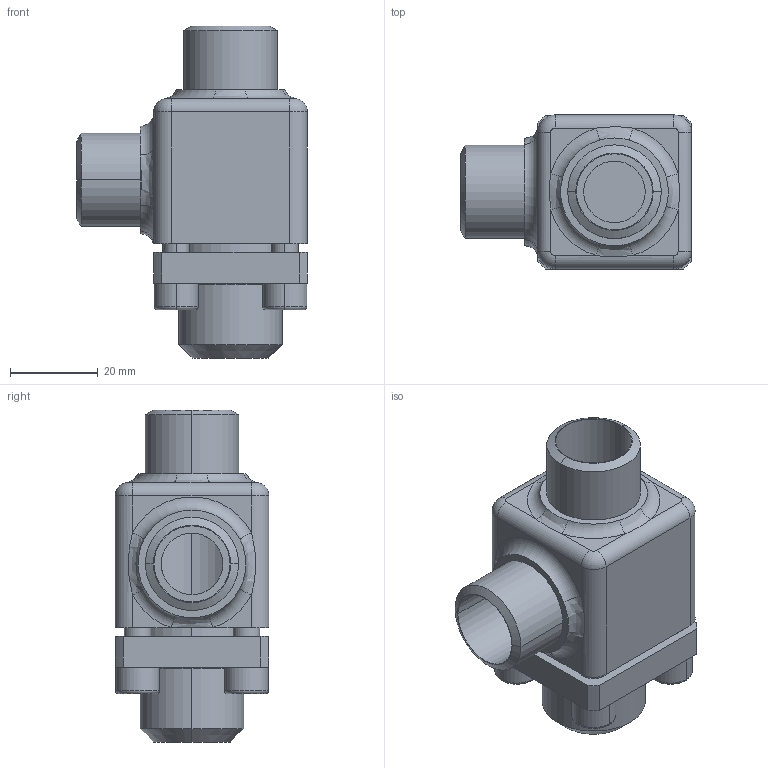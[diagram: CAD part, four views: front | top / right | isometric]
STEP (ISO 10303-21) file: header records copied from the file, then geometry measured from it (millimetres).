
FILE_DESCRIPTION (( 'STEP AP214' ), '1' );
FILE_NAME ('RV98400-DN015_R1_PS40.STEP', '2006-05-02T09:33:45', ( 'Herr Grams' ), ( 'AWP GmbH' ), 'SwSTEP 2.0', 'SolidWorks 2002296', '' );
FILE_SCHEMA (( 'AUTOMOTIVE_DESIGN' ));
Length unit declared in the file: millimetre
Products named in the file (5): RV98400-DN015_R1_PS40; RV98300E10_Deck+Schr-DN6-15_Standard; Deckel98300E10-DN6-15_PS40_Standard; Zylinderschraube-DIN912_M 6x 18; Gehäuse96400E10-DN15_PS40_R1_Standard
Assembly tree (7 placements, depth 3):
  RV98400-DN015_R1_PS40
    Gehäuse96400E10-DN15_PS40_R1_Standard
    RV98300E10_Deck+Schr-DN6-15_Standard
      Zylinderschraube-DIN912_M 6x 18  x4
      Deckel98300E10-DN6-15_PS40_Standard
Bounding box: 52.5 x 35 x 75.5 mm (x, y, z)
Volume: 49871.9 mm3; surface area: 21358.5 mm2
Topology: 6 solids, 6 shells, 176 faces, 387 edges, 239 vertices
Faces by surface type: plane 68, cylinder 64, torus 21, cone 16, bspline 7
Entity records: 8220 total; most frequent: CARTESIAN_POINT 4833, DIRECTION 661, ORIENTED_EDGE 546, AXIS2_PLACEMENT_3D 276, EDGE_CURVE 273, VERTEX_POINT 167, CIRCLE 150, EDGE_LOOP 144
